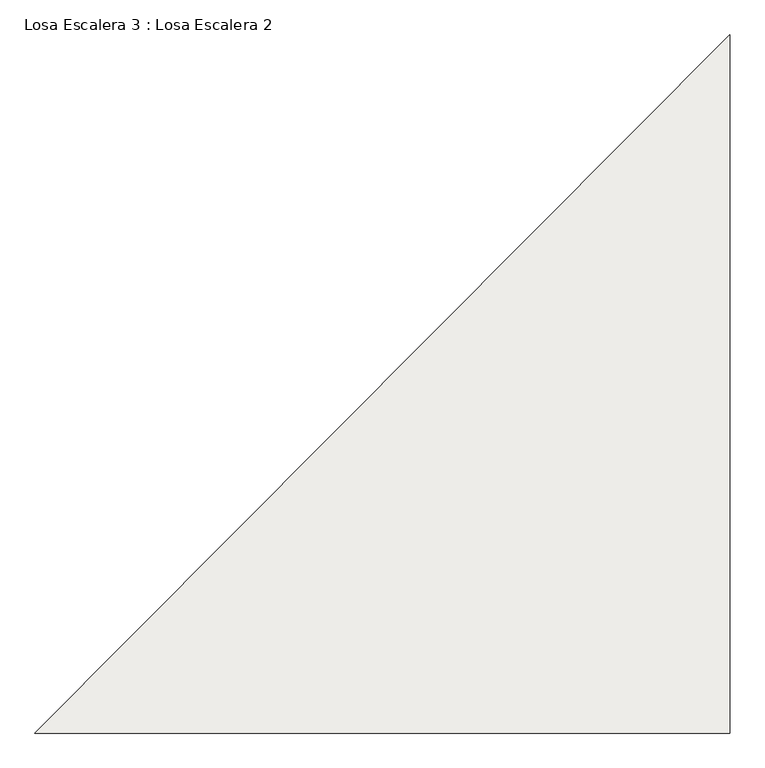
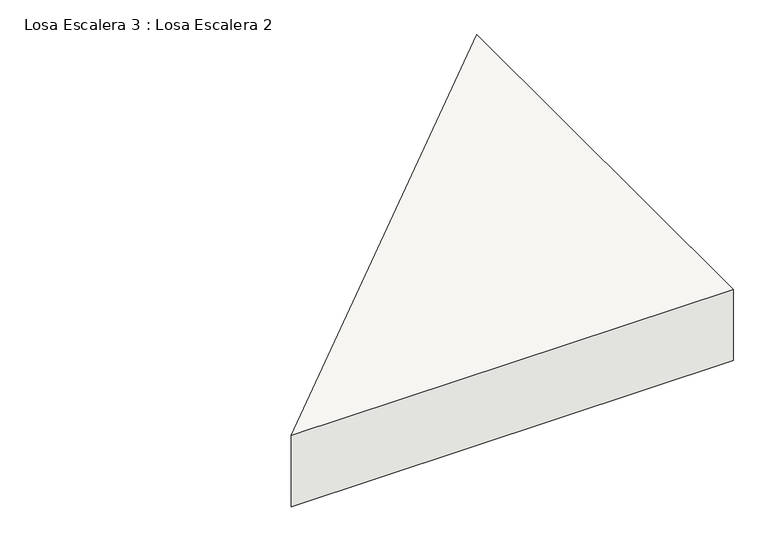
"""IFC4 building model written with IfcOpenShell, lengths in millimetres: slab geometry, Losa Escalera 3 : Losa Escalera 2."""

from ifc_helpers import new_model, si_unit, frame, origin, place, context, project, spatial, polyline, outline, extrude, source, transform, mapped, element, save


def losa_escalera_3_losa_escalera_2_57cf70de(model_context):
    return source(origin(), model_context, "Body", "SweptSolid", [
        extrude(outline(polyline([(11415.0, 7644.0656057), (10314.0698338, 7644.0656057), (11415.0, 8750.0), (11415.0, 7644.0656057)])), frame((0.0, 0.0, 1309.8801816), z_axis=(0.0, 0.0, 1.0), x_axis=(1.0, 0.0, 0.0)), (0.0, 0.0, 1.0), 187.6550161),
    ])


if __name__ == "__main__":
    model = new_model("IFC4")
    model_context = context("Model", 3, world=origin())
    ifc_project = project(units=[si_unit("LENGTHUNIT", "METRE", prefix="MILLI")], contexts=[model_context])
    site = spatial("IfcSite", under=ifc_project)
    building = spatial("IfcBuilding", under=site)
    placement = place(None, origin())
    losa_escalera_3_losa_escalera_2_shape = losa_escalera_3_losa_escalera_2_57cf70de(model_context)
    element("IfcSlab", 1, ObjectType="Losa Escalera 3 : Losa Escalera 2", at=placement, inside=building, context=model_context, shape_type="MappedRepresentation", body=[
        mapped(losa_escalera_3_losa_escalera_2_shape, transform((0.0, 0.0, 0.0), x_axis=(1.0, 0.0, 0.0), y_axis=(0.0, 1.0, 0.0), z_axis=(0.0, 0.0, 1.0))),
    ])
    save(model, "model.ifc")
